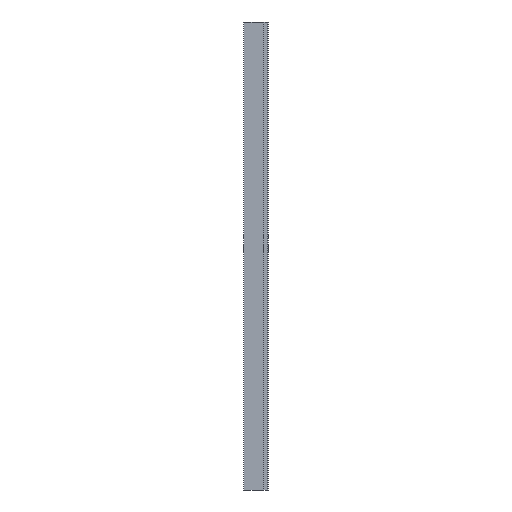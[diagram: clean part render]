
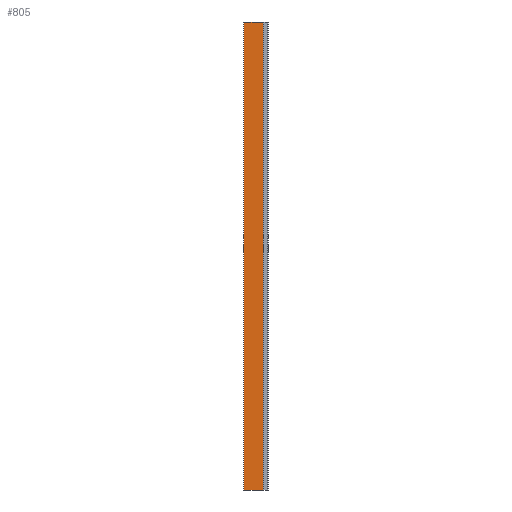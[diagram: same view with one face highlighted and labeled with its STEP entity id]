
A CAD part, left-side view. The second image highlights one B-rep face of the part: STEP entity #805.
In plain terms, the highlighted planar face has unit normal (-1, 0, 0).
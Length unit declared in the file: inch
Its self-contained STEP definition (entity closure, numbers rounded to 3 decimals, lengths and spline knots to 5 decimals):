
#6 = FACE_OUTER_BOUND ( 'NONE', #736, .T. ) ;
#22 = VERTEX_POINT ( 'NONE', #407 ) ;
#39 = VECTOR ( 'NONE', #859, 39.37008 ) ;
#45 = VERTEX_POINT ( 'NONE', #472 ) ;
#65 = VECTOR ( 'NONE', #521, 39.37008 ) ;
#80 = EDGE_CURVE ( 'NONE', #22, #45, #599, .T. ) ;
#87 = ORIENTED_EDGE ( 'NONE', *, *, #664, .T. ) ;
#113 = CARTESIAN_POINT ( 'NONE',  ( 0., 5., 120. ) ) ;
#148 = ORIENTED_EDGE ( 'NONE', *, *, #815, .F. ) ;
#157 = ORIENTED_EDGE ( 'NONE', *, *, #80, .F. ) ;
#216 = ORIENTED_EDGE ( 'NONE', *, *, #679, .T. ) ;
#241 = LINE ( 'NONE', #249, #65 ) ;
#249 = CARTESIAN_POINT ( 'NONE',  ( 0., 0.03937, 0. ) ) ;
#263 = VERTEX_POINT ( 'NONE', #443 ) ;
#306 = VECTOR ( 'NONE', #457, 39.37008 ) ;
#359 = DIRECTION ( 'NONE',  ( 0., 0., -1. ) ) ;
#374 = VERTEX_POINT ( 'NONE', #463 ) ;
#407 = CARTESIAN_POINT ( 'NONE',  ( 0., 5., 120. ) ) ;
#431 = DIRECTION ( 'NONE',  ( 1., 0., 0. ) ) ;
#435 = CARTESIAN_POINT ( 'NONE',  ( 0., 0.03937, 120. ) ) ;
#443 = CARTESIAN_POINT ( 'NONE',  ( 0., 5., 0. ) ) ;
#451 = LINE ( 'NONE', #113, #306 ) ;
#457 = DIRECTION ( 'NONE',  ( 0., 0., -1. ) ) ;
#461 = VECTOR ( 'NONE', #637, 39.37008 ) ;
#463 = CARTESIAN_POINT ( 'NONE',  ( 0., 0.03937, 0. ) ) ;
#472 = CARTESIAN_POINT ( 'NONE',  ( 0., 0.03937, 120. ) ) ;
#501 = PLANE ( 'NONE',  #810 ) ;
#521 = DIRECTION ( 'NONE',  ( 0., -1., 0. ) ) ;
#535 = CARTESIAN_POINT ( 'NONE',  ( 0., 0.03937, 120. ) ) ;
#599 = LINE ( 'NONE', #535, #39 ) ;
#637 = DIRECTION ( 'NONE',  ( 0., 0., -1. ) ) ;
#664 = EDGE_CURVE ( 'NONE', #22, #263, #451, .T. ) ;
#679 = EDGE_CURVE ( 'NONE', #263, #374, #241, .T. ) ;
#736 = EDGE_LOOP ( 'NONE', ( #216, #148, #157, #87 ) ) ;
#752 = CARTESIAN_POINT ( 'NONE',  ( 0., 0.03937, 120. ) ) ;
#805 = ADVANCED_FACE ( 'NONE', ( #6 ), #501, .F. ) ;
#810 = AXIS2_PLACEMENT_3D ( 'NONE', #435, #431, #359 ) ;
#815 = EDGE_CURVE ( 'NONE', #45, #374, #826, .T. ) ;
#826 = LINE ( 'NONE', #752, #461 ) ;
#859 = DIRECTION ( 'NONE',  ( 0., -1., 0. ) ) ;
